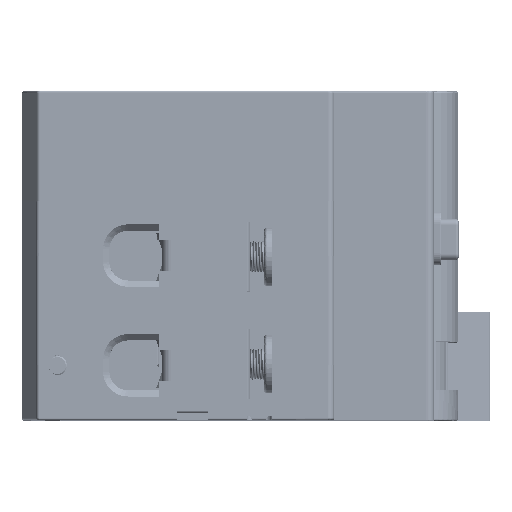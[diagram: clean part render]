
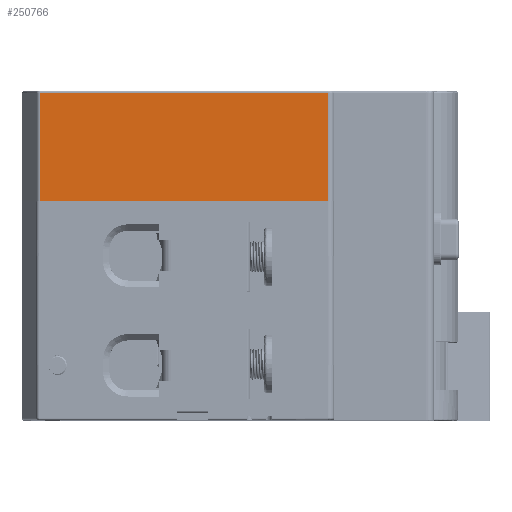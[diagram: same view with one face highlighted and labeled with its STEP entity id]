
A CAD part, top view. The second image highlights one B-rep face of the part: STEP entity #250766.
In plain terms, the highlighted planar face has unit normal (0, 0, 1).
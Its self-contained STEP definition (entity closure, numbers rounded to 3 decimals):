
#1063 = CARTESIAN_POINT ( 'NONE',  ( 2.822, 52.2, 82. ) ) ;
#2936 = DIRECTION ( 'NONE',  ( 1., 0., 0. ) ) ;
#4019 = ORIENTED_EDGE ( 'NONE', *, *, #257459, .T. ) ;
#10059 = ORIENTED_EDGE ( 'NONE', *, *, #275089, .F. ) ;
#12435 = LINE ( 'NONE', #171306, #31748 ) ;
#19440 = DIRECTION ( 'NONE',  ( 0., 0., 1. ) ) ;
#23328 = CARTESIAN_POINT ( 'NONE',  ( 2.424, 34.9, 82. ) ) ;
#31748 = VECTOR ( 'NONE', #269512, 1000. ) ;
#32900 = VERTEX_POINT ( 'NONE', #82460 ) ;
#38014 = VECTOR ( 'NONE', #185220, 1000. ) ;
#62554 = LINE ( 'NONE', #157421, #191379 ) ;
#66083 = CARTESIAN_POINT ( 'NONE',  ( 2.424, 34.9, 82. ) ) ;
#81581 = EDGE_CURVE ( 'NONE', #163258, #32900, #12435, .T. ) ;
#82460 = CARTESIAN_POINT ( 'NONE',  ( 2.822, 34.9, 82. ) ) ;
#118956 = ORIENTED_EDGE ( 'NONE', *, *, #166841, .T. ) ;
#126883 = PLANE ( 'NONE',  #252972 ) ;
#134072 = DIRECTION ( 'NONE',  ( 0., 1., 0. ) ) ;
#134438 = EDGE_LOOP ( 'NONE', ( #4019, #10059, #272195, #118956 ) ) ;
#157421 = CARTESIAN_POINT ( 'NONE',  ( 49., 34.9, 82. ) ) ;
#163258 = VERTEX_POINT ( 'NONE', #1063 ) ;
#166841 = EDGE_CURVE ( 'NONE', #32900, #237534, #169472, .T. ) ;
#169472 = LINE ( 'NONE', #23328, #280487 ) ;
#171306 = CARTESIAN_POINT ( 'NONE',  ( 2.822, 34.9, 82. ) ) ;
#185220 = DIRECTION ( 'NONE',  ( 1., 0., 0. ) ) ;
#185925 = DIRECTION ( 'NONE',  ( 1., 0., 0. ) ) ;
#191379 = VECTOR ( 'NONE', #134072, 1000. ) ;
#198147 = CARTESIAN_POINT ( 'NONE',  ( 49., 52.2, 82. ) ) ;
#215409 = VERTEX_POINT ( 'NONE', #198147 ) ;
#215822 = CARTESIAN_POINT ( 'NONE',  ( 49., 34.9, 82. ) ) ;
#229008 = CARTESIAN_POINT ( 'NONE',  ( 2.638, 52.2, 82. ) ) ;
#237534 = VERTEX_POINT ( 'NONE', #215822 ) ;
#250766 = ADVANCED_FACE ( 'NONE', ( #271847 ), #126883, .T. ) ;
#252972 = AXIS2_PLACEMENT_3D ( 'NONE', #66083, #19440, #185925 ) ;
#257459 = EDGE_CURVE ( 'NONE', #237534, #215409, #62554, .T. ) ;
#258498 = LINE ( 'NONE', #229008, #38014 ) ;
#269512 = DIRECTION ( 'NONE',  ( 0., -1., 0. ) ) ;
#271847 = FACE_OUTER_BOUND ( 'NONE', #134438, .T. ) ;
#272195 = ORIENTED_EDGE ( 'NONE', *, *, #81581, .T. ) ;
#275089 = EDGE_CURVE ( 'NONE', #163258, #215409, #258498, .T. ) ;
#280487 = VECTOR ( 'NONE', #2936, 1000. ) ;
